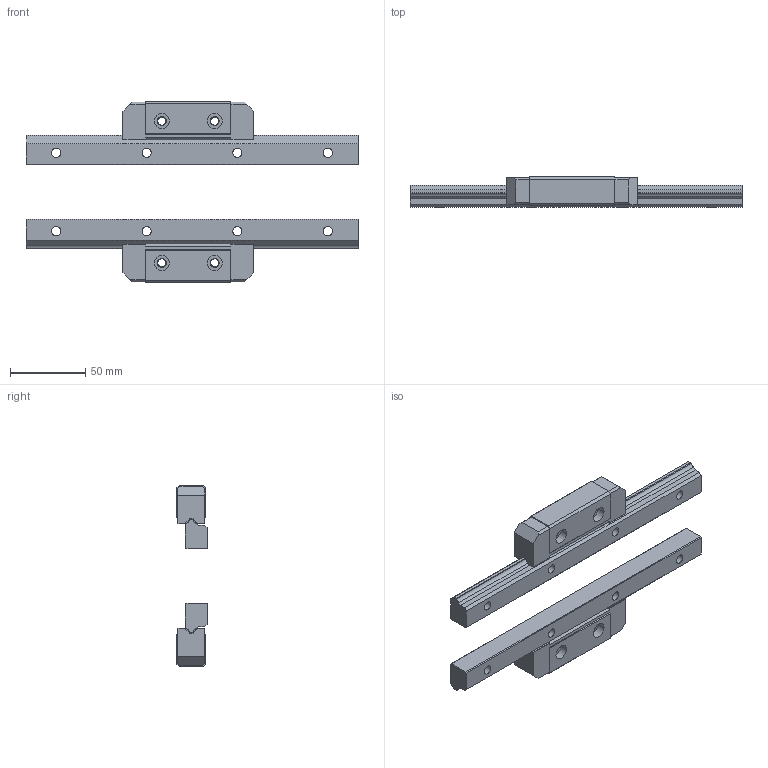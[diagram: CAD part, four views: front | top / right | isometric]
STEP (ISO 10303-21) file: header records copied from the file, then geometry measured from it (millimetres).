
FILE_DESCRIPTION(/* description */ ('STEP AP203'),/* implementation_level */ '2;1');
FILE_NAME(/* name */ 'HR2042-220L_G20_52_66-7_0_0_0',/* time_stamp */ '2024-05-21T10:47:26+02:00',/* author */ ('License CC BY-ND 4.0'),/* organization */ ('CADENAS'),/* preprocessor_version */ 'ST-DEVELOPER v19.3',/* originating_system */ 'PARTsolutions',/* authorisation */ ' ');
FILE_SCHEMA (('CONFIG_CONTROL_DESIGN'));
Length unit declared in the file: millimetre
Products named in the file (5): HR2042-220L_G20_52_66-7_0_0_0; HR2042122020-Rail; HR2042-Slider; HR2042122020-Rail2; HR2042-Slider2
Assembly tree (4 placements, depth 2):
  HR2042-220L_G20_52_66-7_0_0_0
    HR2042122020-Rail
    HR2042-Slider
    HR2042122020-Rail2
    HR2042-Slider2
Bounding box: 220 x 20 x 120 mm (x, y, z)
Volume: 175360.3 mm3; surface area: 49416.8 mm2
Topology: 4 solids, 4 shells, 184 faces, 475 edges, 311 vertices
Faces by surface type: plane 140, cylinder 34, cone 10
Full cylindrical faces by diameter (mm): 3 x2, 5.3 x4, 6 x8, 9.5 x8, 10 x4
Entity records: 5515 total; most frequent: CARTESIAN_POINT 935, DIRECTION 890, ORIENTED_EDGE 872, EDGE_CURVE 436, LINE 360, VECTOR 360, VERTEX_POINT 310, AXIS2_PLACEMENT_3D 265
